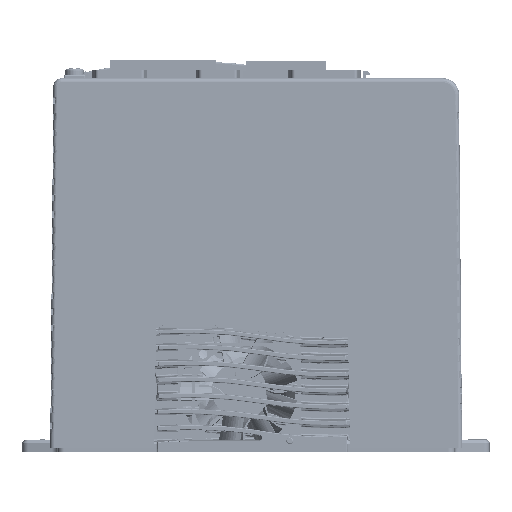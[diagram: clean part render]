
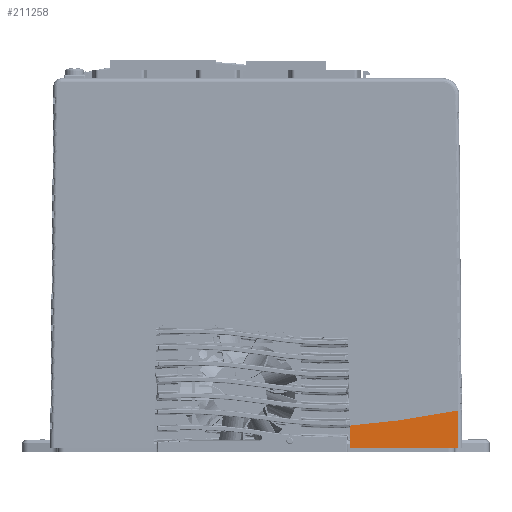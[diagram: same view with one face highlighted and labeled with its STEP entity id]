
A CAD part, front view. The second image highlights one B-rep face of the part: STEP entity #211258.
In plain terms, the highlighted planar face has unit normal (0, -1, 0.009) as drawn and (0.009, 1, 0) by its records, which use the part's own axes.
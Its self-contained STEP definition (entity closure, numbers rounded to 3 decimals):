
#4010 = CARTESIAN_POINT ( 'NONE',  ( 0., 21.6, 76.2 ) ) ;
#49599 = ORIENTED_EDGE ( 'NONE', *, *, #81112, .T. ) ;
#55355 = AXIS2_PLACEMENT_3D ( 'NONE', #451603, #98993, #233438 ) ;
#70729 = CARTESIAN_POINT ( 'NONE',  ( 8.212, 21.528, 34.574 ) ) ;
#81112 = EDGE_CURVE ( 'NONE', #318654, #560715, #352841, .T. ) ;
#98993 = DIRECTION ( 'NONE',  ( 0.009, 1., 0. ) ) ;
#99617 = ORIENTED_EDGE ( 'NONE', *, *, #181873, .F. ) ;
#130514 = LINE ( 'NONE', #4010, #269948 ) ;
#153630 = VERTEX_POINT ( 'NONE', #421270 ) ;
#163965 = CARTESIAN_POINT ( 'NONE',  ( -9.396, 21.682, 34.881 ) ) ;
#179246 = LINE ( 'NONE', #163965, #388326 ) ;
#180454 = ORIENTED_EDGE ( 'NONE', *, *, #267214, .T. ) ;
#181873 = EDGE_CURVE ( 'NONE', #255346, #153630, #420400, .T. ) ;
#188311 = CARTESIAN_POINT ( 'NONE',  ( 13.666, 21.481, 73.944 ) ) ;
#190474 = FACE_OUTER_BOUND ( 'NONE', #337371, .T. ) ;
#211258 = ADVANCED_FACE ( 'NONE', ( #190474 ), #449720, .T. ) ;
#229380 = DIRECTION ( 'NONE',  ( 0.163, -0.001, 0.987 ) ) ;
#233438 = DIRECTION ( 'NONE',  ( -1., 0.009, 0. ) ) ;
#241882 = EDGE_CURVE ( 'NONE', #245877, #255346, #179246, .T. ) ;
#245877 = VERTEX_POINT ( 'NONE', #321174 ) ;
#255346 = VERTEX_POINT ( 'NONE', #554302 ) ;
#258421 = VECTOR ( 'NONE', #229380, 1000. ) ;
#267214 = EDGE_CURVE ( 'NONE', #245877, #318654, #130514, .T. ) ;
#269948 = VECTOR ( 'NONE', #492967, 1000. ) ;
#277784 = CARTESIAN_POINT ( 'NONE',  ( 0., 21.6, 74.7 ) ) ;
#278962 = DIRECTION ( 'NONE',  ( 1., -0.009, -0.009 ) ) ;
#318654 = VERTEX_POINT ( 'NONE', #277784 ) ;
#321174 = CARTESIAN_POINT ( 'NONE',  ( 0., 21.6, 34.717 ) ) ;
#332033 = ORIENTED_EDGE ( 'NONE', *, *, #486616, .F. ) ;
#333853 = CARTESIAN_POINT ( 'NONE',  ( 9.115, 21.52, 46.375 ) ) ;
#337371 = EDGE_LOOP ( 'NONE', ( #99617, #488561, #180454, #49599, #332033 ) ) ;
#337488 = DIRECTION ( 'NONE',  ( 1., -0.009, -0.017 ) ) ;
#352841 = LINE ( 'NONE', #500834, #436624 ) ;
#382459 = CARTESIAN_POINT ( 'NONE',  ( 10.08, 21.512, 52.221 ) ) ;
#388326 = VECTOR ( 'NONE', #337488, 1000. ) ;
#404831 = LINE ( 'NONE', #188311, #258421 ) ;
#420400 = B_SPLINE_CURVE_WITH_KNOTS ( 'NONE', 3,
 ( #70729, #470026, #333853, #382459 ),
 .UNSPECIFIED., .F., .F.,
 ( 4, 4 ),
 ( 0., 0.018 ),
 .UNSPECIFIED. ) ;
#421270 = CARTESIAN_POINT ( 'NONE',  ( 10.08, 21.512, 52.221 ) ) ;
#436624 = VECTOR ( 'NONE', #278962, 1000. ) ;
#442629 = CARTESIAN_POINT ( 'NONE',  ( 13.771, 21.48, 74.58 ) ) ;
#449720 = PLANE ( 'NONE',  #55355 ) ;
#451603 = CARTESIAN_POINT ( 'NONE',  ( 0., 21.6, 76.2 ) ) ;
#470026 = CARTESIAN_POINT ( 'NONE',  ( 8.493, 21.526, 40.492 ) ) ;
#486616 = EDGE_CURVE ( 'NONE', #153630, #560715, #404831, .T. ) ;
#488561 = ORIENTED_EDGE ( 'NONE', *, *, #241882, .F. ) ;
#492967 = DIRECTION ( 'NONE',  ( 0., 0., 1. ) ) ;
#500834 = CARTESIAN_POINT ( 'NONE',  ( -0.013, 21.6, 74.7 ) ) ;
#554302 = CARTESIAN_POINT ( 'NONE',  ( 8.212, 21.528, 34.574 ) ) ;
#560715 = VERTEX_POINT ( 'NONE', #442629 ) ;
